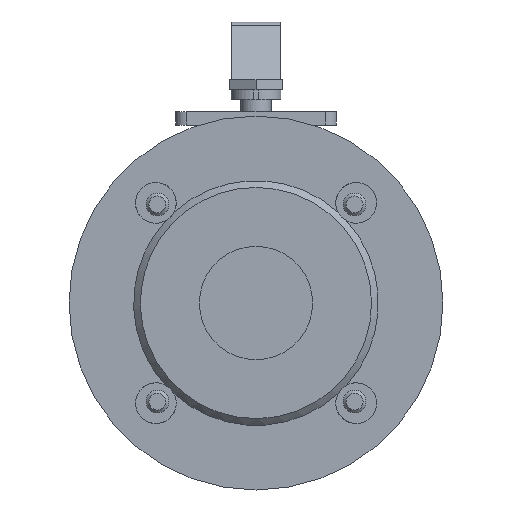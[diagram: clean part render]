
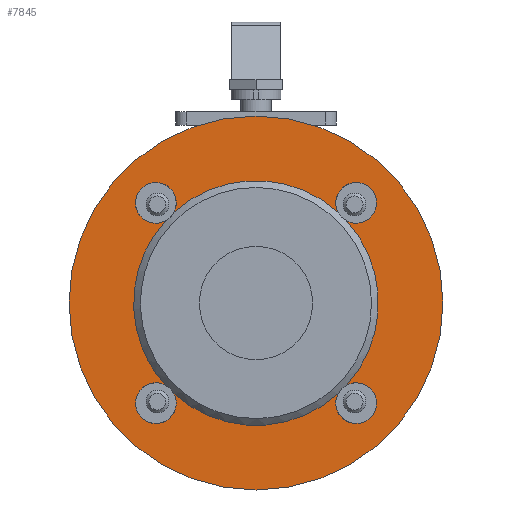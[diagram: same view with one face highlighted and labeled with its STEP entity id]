
A CAD part, left-side view. The second image highlights one B-rep face of the part: STEP entity #7845.
In plain terms, the highlighted planar face has unit normal (-1, 0, 0).
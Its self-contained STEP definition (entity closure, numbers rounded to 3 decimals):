
#7845=ADVANCED_FACE('',(#15206,#15208),#15210,.T.);
#15206=FACE_BOUND('',#15207,.T.);
#15207=EDGE_LOOP('',(#21343,#21344));
#15208=FACE_BOUND('',#15209,.T.);
#15209=EDGE_LOOP('',(#21345,#21346,#21347,#21348,#21349,#21350,#21351,#21352,#21353,
#21354,#21355,#21356));
#15210=PLANE('',#15211);
#15211=AXIS2_PLACEMENT_3D('',#15212,#15213,#15214);
#15212=CARTESIAN_POINT('',(6187.132,3952.905,61.748));
#15213=DIRECTION('',(-1.,0.,0.));
#15214=DIRECTION('',(0.,-1.,0.));
#21343=ORIENTED_EDGE('',*,*,#24594,.F.);
#21344=ORIENTED_EDGE('',*,*,#24593,.F.);
#21345=ORIENTED_EDGE('',*,*,#24566,.T.);
#21346=ORIENTED_EDGE('',*,*,#24565,.T.);
#21347=ORIENTED_EDGE('',*,*,#24584,.T.);
#21348=ORIENTED_EDGE('',*,*,#24576,.T.);
#21349=ORIENTED_EDGE('',*,*,#24575,.T.);
#21350=ORIENTED_EDGE('',*,*,#24583,.T.);
#21351=ORIENTED_EDGE('',*,*,#24587,.T.);
#21352=ORIENTED_EDGE('',*,*,#24572,.T.);
#21353=ORIENTED_EDGE('',*,*,#24586,.T.);
#21354=ORIENTED_EDGE('',*,*,#24582,.T.);
#21355=ORIENTED_EDGE('',*,*,#24581,.T.);
#21356=ORIENTED_EDGE('',*,*,#24585,.T.);
#24565=EDGE_CURVE('',#29064,#29065,#29066,.T.);
#24566=EDGE_CURVE('',#29067,#29064,#29068,.T.);
#24572=EDGE_CURVE('',#29075,#29077,#29079,.T.);
#24575=EDGE_CURVE('',#29084,#29085,#29086,.T.);
#24576=EDGE_CURVE('',#29087,#29084,#29088,.T.);
#24581=EDGE_CURVE('',#29097,#29094,#29098,.T.);
#24582=EDGE_CURVE('',#29095,#29097,#29099,.T.);
#24583=EDGE_CURVE('',#29085,#29100,#29101,.T.);
#24584=EDGE_CURVE('',#29065,#29087,#29102,.T.);
#24585=EDGE_CURVE('',#29094,#29067,#29103,.T.);
#24586=EDGE_CURVE('',#29077,#29095,#29104,.T.);
#24587=EDGE_CURVE('',#29100,#29075,#29105,.T.);
#24593=EDGE_CURVE('',#29116,#29117,#29118,.T.);
#24594=EDGE_CURVE('',#29117,#29116,#29119,.T.);
#29064=VERTEX_POINT('',#39783);
#29065=VERTEX_POINT('',#39784);
#29066=CIRCLE('',#39785,9.);
#29067=VERTEX_POINT('',#39789);
#29068=CIRCLE('',#39790,9.);
#29075=VERTEX_POINT('',#39856);
#29077=VERTEX_POINT('',#39873);
#29079=CIRCLE('',#39925,9.);
#29084=VERTEX_POINT('',#39939);
#29085=VERTEX_POINT('',#39940);
#29086=CIRCLE('',#39941,9.);
#29087=VERTEX_POINT('',#39945);
#29088=CIRCLE('',#39946,9.);
#29094=VERTEX_POINT('',#40011);
#29095=VERTEX_POINT('',#40012);
#29097=VERTEX_POINT('',#40064);
#29098=CIRCLE('',#40065,9.);
#29099=CIRCLE('',#40069,9.);
#29100=VERTEX_POINT('',#40073);
#29101=CIRCLE('',#40074,54.);
#29102=CIRCLE('',#40078,54.);
#29103=CIRCLE('',#40082,54.);
#29104=CIRCLE('',#40086,54.);
#29105=CIRCLE('',#40090,54.);
#29116=VERTEX_POINT('',#40119);
#29117=VERTEX_POINT('',#40120);
#29118=CIRCLE('',#40121,82.5);
#29119=CIRCLE('',#40125,82.5);
#39783=CARTESIAN_POINT('',(6187.132,3901.028,-60.258));
#39784=CARTESIAN_POINT('',(6187.132,3916.714,-60.829));
#39785=AXIS2_PLACEMENT_3D('',#39786,#39787,#39788);
#39786=CARTESIAN_POINT('',(6187.132,3908.711,-64.946));
#39787=DIRECTION('',(1.,0.,0.));
#39788=DIRECTION('',(0.,-0.854,0.521));
#39789=CARTESIAN_POINT('',(6187.132,3912.827,-56.942));
#39790=AXIS2_PLACEMENT_3D('',#39791,#39792,#39793);
#39791=CARTESIAN_POINT('',(6187.132,3908.711,-64.946));
#39792=DIRECTION('',(1.,0.,0.));
#39793=DIRECTION('',(0.,0.457,0.889));
#39856=CARTESIAN_POINT('',(6187.132,3992.983,15.439));
#39873=CARTESIAN_POINT('',(6187.132,3989.096,19.326));
#39925=AXIS2_PLACEMENT_3D('',#39926,#39927,#39928);
#39926=CARTESIAN_POINT('',(6187.132,3997.099,23.443));
#39927=DIRECTION('',(1.,0.,0.));
#39928=DIRECTION('',(0.,-0.457,-0.889));
#39939=CARTESIAN_POINT('',(6187.132,3988.352,-67.063));
#39940=CARTESIAN_POINT('',(6187.132,3992.983,-56.942));
#39941=AXIS2_PLACEMENT_3D('',#39942,#39943,#39944);
#39942=CARTESIAN_POINT('',(6187.132,3997.099,-64.946));
#39943=DIRECTION('',(1.,0.,0.));
#39944=DIRECTION('',(0.,-0.972,-0.235));
#39945=CARTESIAN_POINT('',(6187.132,3989.096,-60.829));
#39946=AXIS2_PLACEMENT_3D('',#39947,#39948,#39949);
#39947=CARTESIAN_POINT('',(6187.132,3997.099,-64.946));
#39948=DIRECTION('',(1.,0.,0.));
#39949=DIRECTION('',(0.,-0.889,0.457));
#40011=CARTESIAN_POINT('',(6187.132,3912.827,15.439));
#40012=CARTESIAN_POINT('',(6187.132,3916.714,19.326));
#40064=CARTESIAN_POINT('',(6187.132,3906.593,32.19));
#40065=AXIS2_PLACEMENT_3D('',#40066,#40067,#40068);
#40066=CARTESIAN_POINT('',(6187.132,3908.711,23.443));
#40067=DIRECTION('',(1.,0.,0.));
#40068=DIRECTION('',(0.,-0.235,0.972));
#40069=AXIS2_PLACEMENT_3D('',#40070,#40071,#40072);
#40070=CARTESIAN_POINT('',(6187.132,3908.711,23.443));
#40071=DIRECTION('',(1.,0.,0.));
#40072=DIRECTION('',(0.,0.889,-0.457));
#40073=CARTESIAN_POINT('',(6187.132,4003.304,-40.14));
#40074=AXIS2_PLACEMENT_3D('',#40075,#40076,#40077);
#40075=CARTESIAN_POINT('',(6187.132,3952.905,-20.752));
#40076=DIRECTION('',(1.,0.,0.));
#40077=DIRECTION('',(0.,0.742,-0.67));
#40078=AXIS2_PLACEMENT_3D('',#40079,#40080,#40081);
#40079=CARTESIAN_POINT('',(6187.132,3952.905,-20.752));
#40080=DIRECTION('',(1.,0.,0.));
#40081=DIRECTION('',(0.,-0.67,-0.742));
#40082=AXIS2_PLACEMENT_3D('',#40083,#40084,#40085);
#40083=CARTESIAN_POINT('',(6187.132,3952.905,-20.752));
#40084=DIRECTION('',(1.,0.,0.));
#40085=DIRECTION('',(0.,-0.742,0.67));
#40086=AXIS2_PLACEMENT_3D('',#40087,#40088,#40089);
#40087=CARTESIAN_POINT('',(6187.132,3952.905,-20.752));
#40088=DIRECTION('',(1.,0.,0.));
#40089=DIRECTION('',(0.,0.67,0.742));
#40090=AXIS2_PLACEMENT_3D('',#40091,#40092,#40093);
#40091=CARTESIAN_POINT('',(6187.132,3952.905,-20.752));
#40092=DIRECTION('',(1.,0.,0.));
#40093=DIRECTION('',(0.,0.933,-0.359));
#40119=CARTESIAN_POINT('',(6187.132,3952.905,61.748));
#40120=CARTESIAN_POINT('',(6187.132,3952.905,-103.252));
#40121=AXIS2_PLACEMENT_3D('',#40122,#40123,#40124);
#40122=CARTESIAN_POINT('',(6187.132,3952.905,-20.752));
#40123=DIRECTION('',(1.,0.,0.));
#40124=DIRECTION('',(0.,0.,1.));
#40125=AXIS2_PLACEMENT_3D('',#40126,#40127,#40128);
#40126=CARTESIAN_POINT('',(6187.132,3952.905,-20.752));
#40127=DIRECTION('',(1.,0.,0.));
#40128=DIRECTION('',(0.,0.,-1.));
